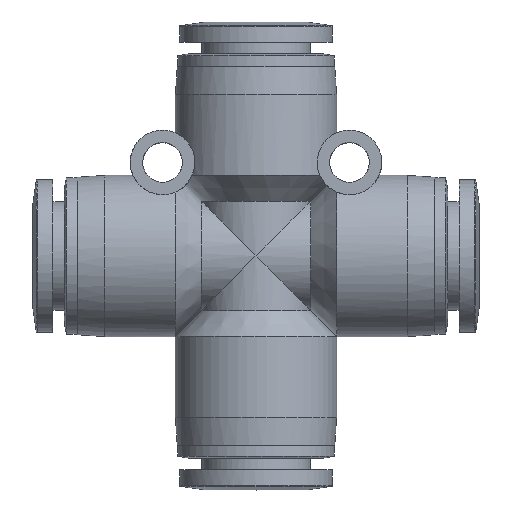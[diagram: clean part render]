
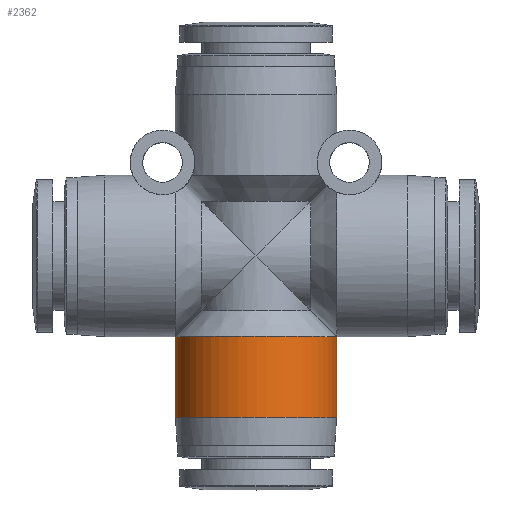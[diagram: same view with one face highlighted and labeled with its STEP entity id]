
A CAD part, top view. The second image highlights one B-rep face of the part: STEP entity #2362.
In plain terms, the highlighted cylindrical face has radius 8.75 mm (diameter 17.5 mm), a partial arc.
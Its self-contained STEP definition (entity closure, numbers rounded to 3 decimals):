
#123 = CARTESIAN_POINT ( 'NONE',  ( 6.997, -8.75, 5.377 ) ) ;
#244 = DIRECTION ( 'NONE',  ( 0., 1., 0. ) ) ;
#345 = DIRECTION ( 'NONE',  ( 0., 1., 0. ) ) ;
#391 = AXIS2_PLACEMENT_3D ( 'NONE', #3818, #345, #4843 ) ;
#398 = ORIENTED_EDGE ( 'NONE', *, *, #1098, .T. ) ;
#405 = CARTESIAN_POINT ( 'NONE',  ( -5.377, -17.55, 6.997 ) ) ;
#479 = CARTESIAN_POINT ( 'NONE',  ( 7.646, -17.55, 4.407 ) ) ;
#600 = VERTEX_POINT ( 'NONE', #5835 ) ;
#801 = VECTOR ( 'NONE', #244, 1000. ) ;
#942 = CARTESIAN_POINT ( 'NONE',  ( -4.407, -17.55, 7.646 ) ) ;
#979 = CARTESIAN_POINT ( 'NONE',  ( 8.522, -17.55, 2.29 ) ) ;
#1098 = EDGE_CURVE ( 'NONE', #600, #3848, #4701, .T. ) ;
#1313 = CARTESIAN_POINT ( 'NONE',  ( -8.522, -8.75, 2.29 ) ) ;
#1388 = CARTESIAN_POINT ( 'NONE',  ( 8.75, -8.75, 0. ) ) ;
#1426 = CARTESIAN_POINT ( 'NONE',  ( -2.29, -8.75, 8.522 ) ) ;
#1626 = CARTESIAN_POINT ( 'NONE',  ( 8.75, -17.55, 0. ) ) ;
#1642 = ORIENTED_EDGE ( 'NONE', *, *, #5610, .F. ) ;
#1699 = CARTESIAN_POINT ( 'NONE',  ( 1.145, -17.55, 8.75 ) ) ;
#1877 = CARTESIAN_POINT ( 'NONE',  ( 2.29, -8.75, 8.522 ) ) ;
#1917 = EDGE_CURVE ( 'NONE', #7515, #6048, #7261, .T. ) ;
#2116 = CARTESIAN_POINT ( 'NONE',  ( -6.997, -17.55, 5.377 ) ) ;
#2231 = CARTESIAN_POINT ( 'NONE',  ( 2.29, -17.55, 8.522 ) ) ;
#2324 = EDGE_LOOP ( 'NONE', ( #1642, #398, #3207, #6968 ) ) ;
#2362 = ADVANCED_FACE ( 'NONE', ( #5495 ), #7244, .T. ) ;
#2449 = CARTESIAN_POINT ( 'NONE',  ( 5.377, -8.75, 6.997 ) ) ;
#2528 = CARTESIAN_POINT ( 'NONE',  ( 4.407, -8.75, 7.646 ) ) ;
#2565 = CARTESIAN_POINT ( 'NONE',  ( 7.646, -8.75, 4.407 ) ) ;
#2601 = CARTESIAN_POINT ( 'NONE',  ( -6.997, -8.75, 5.377 ) ) ;
#2633 = B_SPLINE_CURVE_WITH_KNOTS ( 'NONE', 3,
 ( #1626, #3386, #979, #479, #2809, #5015, #7456, #2231, #1699, #7342, #4558, #942, #405, #2116, #3422, #6882, #4444, #2732 ),
 .UNSPECIFIED., .F., .F.,
 ( 4, 2, 2, 2, 2, 2, 2, 2, 4 ),
 ( 0.5, 0.563, 0.625, 0.688, 0.75, 0.813, 0.875, 0.938, 1. ),
 .UNSPECIFIED. ) ;
#2732 = CARTESIAN_POINT ( 'NONE',  ( -8.75, -17.55, 0. ) ) ;
#2794 = EDGE_CURVE ( 'NONE', #3848, #6048, #6619, .T. ) ;
#2809 = CARTESIAN_POINT ( 'NONE',  ( 6.997, -17.55, 5.377 ) ) ;
#2970 = CARTESIAN_POINT ( 'NONE',  ( -8.75, -8.75, 0. ) ) ;
#3207 = ORIENTED_EDGE ( 'NONE', *, *, #2794, .T. ) ;
#3386 = CARTESIAN_POINT ( 'NONE',  ( 8.75, -17.55, 1.145 ) ) ;
#3422 = CARTESIAN_POINT ( 'NONE',  ( -7.646, -17.55, 4.407 ) ) ;
#3640 = CARTESIAN_POINT ( 'NONE',  ( -8.75, -8.75, 1.145 ) ) ;
#3751 = CARTESIAN_POINT ( 'NONE',  ( -4.407, -8.75, 7.646 ) ) ;
#3818 = CARTESIAN_POINT ( 'NONE',  ( 0., -13.15, 0. ) ) ;
#3848 = VERTEX_POINT ( 'NONE', #6150 ) ;
#4060 = CARTESIAN_POINT ( 'NONE',  ( 8.75, -13.15, 0. ) ) ;
#4313 = CARTESIAN_POINT ( 'NONE',  ( 1.145, -8.75, 8.75 ) ) ;
#4401 = CARTESIAN_POINT ( 'NONE',  ( -8.75, -17.55, 0. ) ) ;
#4444 = CARTESIAN_POINT ( 'NONE',  ( -8.75, -17.55, 1.145 ) ) ;
#4558 = CARTESIAN_POINT ( 'NONE',  ( -2.29, -17.55, 8.522 ) ) ;
#4701 = LINE ( 'NONE', #4060, #7015 ) ;
#4843 = DIRECTION ( 'NONE',  ( -1., 0., 0. ) ) ;
#5015 = CARTESIAN_POINT ( 'NONE',  ( 5.377, -17.55, 6.997 ) ) ;
#5241 = DIRECTION ( 'NONE',  ( 0., 1., 0. ) ) ;
#5495 = FACE_OUTER_BOUND ( 'NONE', #2324, .T. ) ;
#5501 = CARTESIAN_POINT ( 'NONE',  ( -5.377, -8.75, 6.997 ) ) ;
#5610 = EDGE_CURVE ( 'NONE', #600, #7515, #2633, .T. ) ;
#5835 = CARTESIAN_POINT ( 'NONE',  ( 8.75, -17.55, 0. ) ) ;
#6029 = CARTESIAN_POINT ( 'NONE',  ( 8.522, -8.75, 2.29 ) ) ;
#6048 = VERTEX_POINT ( 'NONE', #2970 ) ;
#6150 = CARTESIAN_POINT ( 'NONE',  ( 8.75, -8.75, 0. ) ) ;
#6524 = CARTESIAN_POINT ( 'NONE',  ( -7.646, -8.75, 4.407 ) ) ;
#6619 = B_SPLINE_CURVE_WITH_KNOTS ( 'NONE', 3,
 ( #1388, #7177, #6029, #2565, #123, #2449, #2528, #1877, #4313, #6637, #1426, #3751, #5501, #2601, #6524, #1313, #3640, #7063 ),
 .UNSPECIFIED., .F., .F.,
 ( 4, 2, 2, 2, 2, 2, 2, 2, 4 ),
 ( 0., 0.125, 0.25, 0.375, 0.5, 0.625, 0.75, 0.875, 1. ),
 .UNSPECIFIED. ) ;
#6637 = CARTESIAN_POINT ( 'NONE',  ( -1.145, -8.75, 8.75 ) ) ;
#6882 = CARTESIAN_POINT ( 'NONE',  ( -8.522, -17.55, 2.29 ) ) ;
#6968 = ORIENTED_EDGE ( 'NONE', *, *, #1917, .F. ) ;
#7015 = VECTOR ( 'NONE', #5241, 1000. ) ;
#7063 = CARTESIAN_POINT ( 'NONE',  ( -8.75, -8.75, 0. ) ) ;
#7177 = CARTESIAN_POINT ( 'NONE',  ( 8.75, -8.75, 1.145 ) ) ;
#7221 = CARTESIAN_POINT ( 'NONE',  ( -8.75, -13.15, 0. ) ) ;
#7244 = CYLINDRICAL_SURFACE ( 'NONE', #391, 8.75 ) ;
#7261 = LINE ( 'NONE', #7221, #801 ) ;
#7342 = CARTESIAN_POINT ( 'NONE',  ( -1.145, -17.55, 8.75 ) ) ;
#7456 = CARTESIAN_POINT ( 'NONE',  ( 4.407, -17.55, 7.646 ) ) ;
#7515 = VERTEX_POINT ( 'NONE', #4401 ) ;
